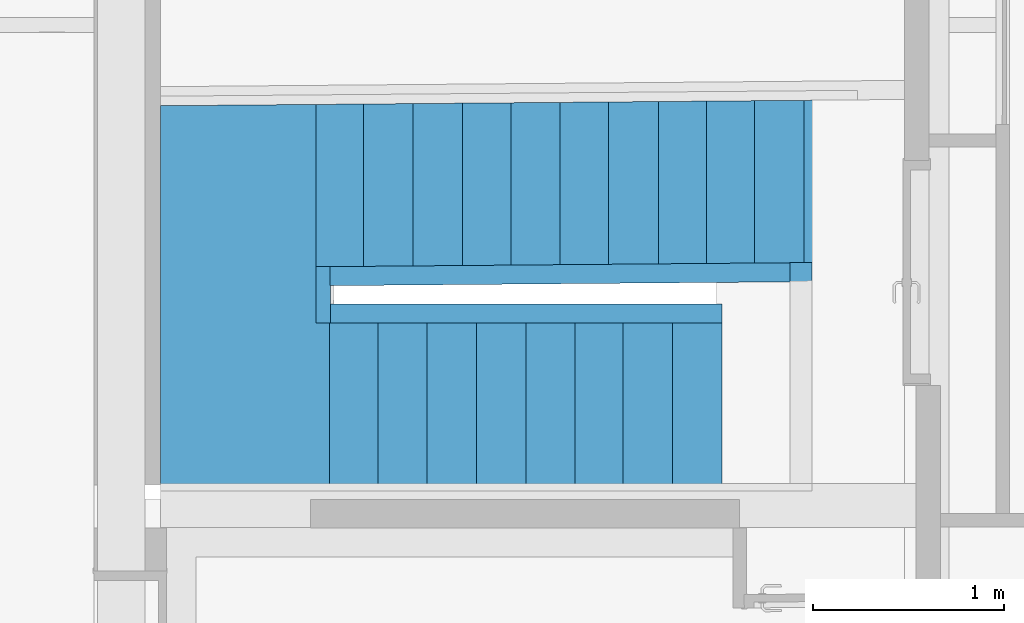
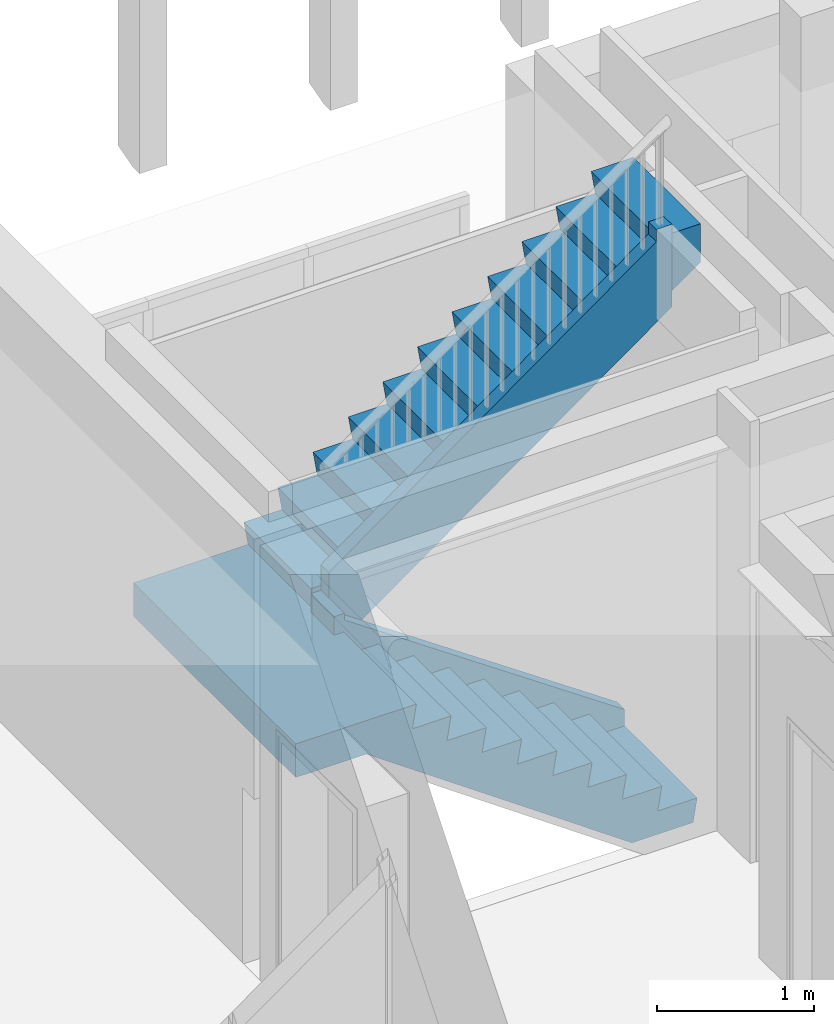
# One storey, part 47 of 65: 1 stair, 1 stair flight, 1 element without a shape of its own.
"""IFC4 building model written with IfcOpenShell, lengths in metres."""

from ifc_helpers import new_model, entity, si_unit, converted_unit, derived_unit, direction, frame, origin, place, context, subcontext, project, spatial, polygons, material, constituent, constituent_set, type_object, element, aggregate, save


model = new_model("IFC4")

# Units and contexts
model_context = context("Model", 3, precision=1e-05, world=origin(), true_north=direction((6.12303176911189e-17, 1.0)))
body_context = subcontext(model_context, "Body", "Model", "MODEL_VIEW")
ifc_project = project(units=[si_unit("LENGTHUNIT", "METRE"), si_unit("AREAUNIT", "SQUARE_METRE"), si_unit("VOLUMEUNIT", "CUBIC_METRE"), converted_unit("PLANEANGLEUNIT", "DEGREE", entity("IfcRatioMeasure", 0.0174532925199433), si_unit("PLANEANGLEUNIT", "RADIAN"), dimensions=[0, 0, 0, 0, 0, 0, 0]), si_unit("MASSUNIT", "GRAM", prefix="KILO"), derived_unit("MASSDENSITYUNIT", [(si_unit("MASSUNIT", "GRAM", prefix="KILO"), 1), (si_unit("LENGTHUNIT", "METRE"), -3)]), derived_unit("MOMENTOFINERTIAUNIT", [(si_unit("LENGTHUNIT", "METRE"), 4)]), si_unit("TIMEUNIT", "SECOND"), si_unit("FREQUENCYUNIT", "HERTZ"), si_unit("THERMODYNAMICTEMPERATUREUNIT", "DEGREE_CELSIUS"), derived_unit("THERMALTRANSMITTANCEUNIT", [(si_unit("MASSUNIT", "GRAM", prefix="KILO"), 1), (si_unit("THERMODYNAMICTEMPERATUREUNIT", "KELVIN"), -1), (si_unit("TIMEUNIT", "SECOND"), -3)]), derived_unit("VOLUMETRICFLOWRATEUNIT", [(si_unit("LENGTHUNIT", "METRE"), 3), (si_unit("TIMEUNIT", "SECOND"), -1)]), si_unit("ELECTRICCURRENTUNIT", "AMPERE"), si_unit("ELECTRICVOLTAGEUNIT", "VOLT"), si_unit("POWERUNIT", "WATT"), si_unit("FORCEUNIT", "NEWTON", prefix="KILO"), si_unit("ILLUMINANCEUNIT", "LUX"), si_unit("LUMINOUSFLUXUNIT", "LUMEN"), si_unit("LUMINOUSINTENSITYUNIT", "CANDELA"), derived_unit("USERDEFINED", [(si_unit("MASSUNIT", "GRAM", prefix="KILO"), -1), (si_unit("LENGTHUNIT", "METRE"), -2), (si_unit("TIMEUNIT", "SECOND"), 3), (si_unit("LUMINOUSFLUXUNIT", "LUMEN"), 1)]), derived_unit("LINEARVELOCITYUNIT", [(si_unit("LENGTHUNIT", "METRE"), 1), (si_unit("TIMEUNIT", "SECOND"), -1)]), si_unit("PRESSUREUNIT", "PASCAL"), derived_unit("USERDEFINED", [(si_unit("LENGTHUNIT", "METRE"), -2), (si_unit("MASSUNIT", "GRAM", prefix="KILO"), 1), (si_unit("TIMEUNIT", "SECOND"), -2)]), derived_unit("LINEARFORCEUNIT", [(si_unit("MASSUNIT", "GRAM", prefix="KILO"), 1), (si_unit("LENGTHUNIT", "METRE"), 1), (si_unit("TIMEUNIT", "SECOND"), -2), (si_unit("LENGTHUNIT", "METRE"), -1)]), derived_unit("PLANARFORCEUNIT", [(si_unit("MASSUNIT", "GRAM", prefix="KILO"), 1), (si_unit("LENGTHUNIT", "METRE"), 1), (si_unit("TIMEUNIT", "SECOND"), -2), (si_unit("LENGTHUNIT", "METRE"), -2)])], contexts=[model_context])

# Site, building, storey
site_placement = place(None, origin())
site = spatial("IfcSite", under=ifc_project, at=site_placement, Name="Default", CompositionType="ELEMENT")
building_placement = place(site_placement, origin())
building = spatial("IfcBuilding", under=site, at=building_placement, Name="HOTEL CONSULAIRE BOULOGNE SUR MER", CompositionType="ELEMENT")
storey_placement = place(building_placement, origin())
storey = spatial("IfcBuildingStorey", under=building, at=storey_placement, Name="Niveau 0", CompositionType="ELEMENT", Elevation=1.31981936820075e-13)

# Stair, stair flight
stair_type_1 = type_object("IfcStairType", PredefinedType="NOTDEFINED")
stair_1_placement = place(storey_placement, origin())
stair_1 = element("IfcStair", 1, at=stair_1_placement, inside=storey, type_object=stair_type_1, Name="Escalier coulé sur place:Escalier", PredefinedType="NOTDEFINED")
ifc_material_1 = material(Name="Dalle, carrelage 15 x 15", Category="Mosaïque")
ifc_constituent_1 = constituent(ifc_material_1, Name="Dalle, carrelage 15 x 15", Category="Matériaux")
ifc_material_2 = material(Name="Maçonnerie - Béton", Category="Béton")
ifc_constituent_2 = constituent(ifc_material_2, Name="Maçonnerie - Béton", Category="Matériaux")
ifc_constituent_set = constituent_set(constituents=[ifc_constituent_1, ifc_constituent_2], Name="MaterialConstituentSet")
stair_flight_type = type_object("IfcStairFlightType", Name="Volée monobloc:Profondeur de structure 250 mm", PredefinedType="NOTDEFINED")
stair_flight_placement = place(stair_1_placement, frame((-5.15977317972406, -13.8709141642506, 0.0)))
stair_flight = element("IfcStairFlight", 2, at=stair_flight_placement, type_object=stair_flight_type, material=ifc_constituent_set, Name="Escalier coulé sur place:Escalier:269972 Run 1", ObjectType="Volée monobloc:Profondeur de structure 250 mm", PredefinedType="NOTDEFINED", context=body_context, shape_type="Tessellation", body=[
    polygons([(2.94548335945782, 2.16573425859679e-15, 0.181076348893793), (2.94548335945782, 0.921793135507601, 0.181076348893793), (2.65548335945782, 0.921793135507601, 0.181076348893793), (2.65548335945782, 2.16573425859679e-15, 0.181076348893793), (2.91548335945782, 2.16573425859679e-15, 0.171076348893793), (2.65548335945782, 2.16573425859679e-15, 0.171076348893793), (2.65548335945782, 0.921793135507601, 0.171076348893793), (2.91548335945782, 0.921793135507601, 0.171076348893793), (2.91548335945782, 2.16573425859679e-15, 7.6348893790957e-05), (2.91548335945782, 0.921793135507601, 7.63488937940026e-05)], [[[3, 4, 1, 2]], [[8, 5, 6, 7]], [[1, 4, 6, 5, 9]], [[3, 2, 10, 8, 7]], [[4, 3, 7, 6]], [[8, 10, 9, 5]], [[10, 2, 1, 9]]], closed=True),
    polygons([(2.68548335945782, 2.16573425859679e-15, 0.362152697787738), (2.68548335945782, 0.921793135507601, 0.362152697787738), (2.39548335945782, 0.921793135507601, 0.362152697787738), (2.39548335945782, 2.16573425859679e-15, 0.362152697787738), (2.65548335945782, 2.16573425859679e-15, 0.352152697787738), (2.39548335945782, 2.16573425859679e-15, 0.352152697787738), (2.39548335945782, 0.921793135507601, 0.352152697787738), (2.65548335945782, 0.921793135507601, 0.352152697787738), (2.65548335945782, 2.16573425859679e-15, 0.181152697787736), (2.65548335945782, 0.921793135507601, 0.181152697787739)], [[[3, 4, 1, 2]], [[8, 5, 6, 7]], [[1, 4, 6, 5, 9]], [[3, 2, 10, 8, 7]], [[4, 3, 7, 6]], [[8, 10, 9, 5]], [[10, 2, 1, 9]]], closed=True),
    polygons([(1.13948335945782, 2.16573425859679e-15, 1.44861079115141), (1.13948335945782, 0.921793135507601, 1.44861079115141), (0.855483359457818, 0.921793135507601, 1.44861079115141), (0.855483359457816, 2.16573425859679e-15, 1.44861079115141), (1.10948335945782, 2.16573425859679e-15, 1.43861079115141), (0.855483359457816, 2.16573425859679e-15, 1.43861079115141), (0.855483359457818, 0.921793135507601, 1.43861079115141), (1.10948335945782, 0.921793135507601, 1.43861079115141), (1.10948335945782, 2.16573425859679e-15, 1.2676107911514), (1.10948335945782, 0.921793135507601, 1.26761079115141)], [[[3, 4, 1, 2]], [[8, 5, 6, 7]], [[1, 4, 6, 5, 9]], [[3, 2, 10, 8, 7]], [[4, 3, 7, 6]], [[8, 10, 9, 5]], [[10, 2, 1, 9]]], closed=True),
    polygons([(0.843932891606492, 2.06851445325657, 1.62968714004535), (1.08286712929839e-15, 2.06139650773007, 1.62968714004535), (1.08286712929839e-15, 2.16573425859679e-15, 1.62968714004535), (0.885483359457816, 2.16573425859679e-15, 1.62968714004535), (0.885483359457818, 0.921793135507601, 1.62968714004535), (0.813932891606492, 0.921793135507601, 1.62968714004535), (0.813932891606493, 1.2169421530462, 1.62968714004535), (0.843932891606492, 1.21719591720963, 1.62968714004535), (1.08286712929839e-15, 2.06139650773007, 1.61968714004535), (0.843932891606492, 2.06851445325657, 1.61968714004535), (0.843932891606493, 1.21719591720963, 1.61968714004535), (0.813932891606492, 1.2169421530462, 1.61968714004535), (0.813932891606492, 0.921793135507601, 1.61968714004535), (0.855483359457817, 0.921793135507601, 1.61968714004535), (0.855483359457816, 2.16573425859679e-15, 1.61968714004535), (1.08286712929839e-15, 2.16573425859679e-15, 1.61968714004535), (0.855483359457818, 0.921793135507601, 1.44868714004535), (0.855483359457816, 2.16573425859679e-15, 1.44868714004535)], [[[8, 1, 2, 3, 4, 5, 6, 7]], [[9, 10, 11, 12, 13, 14, 15, 16]], [[2, 1, 10, 9]], [[6, 5, 17, 14, 13]], [[1, 8, 11, 10]], [[7, 6, 13, 12]], [[3, 2, 9, 16]], [[14, 17, 18, 15]], [[4, 3, 16, 15, 18]], [[17, 5, 4, 18]], [[8, 7, 12, 11]]], closed=True),
    polygons([(1.06393289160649, 2.07036998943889, 1.99183983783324), (1.06393289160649, 1.21905685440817, 1.99183983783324), (1.35393283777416, 1.22150990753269, 1.99183983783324), (1.35393283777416, 2.07281592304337, 1.99183983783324), (1.09393289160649, 2.07062301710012, 1.98183983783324), (1.35393283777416, 2.07281592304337, 1.98183983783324), (1.35393283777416, 1.22150990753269, 1.98183983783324), (1.09393289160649, 1.2193106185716, 1.98183983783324), (1.09393289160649, 2.07062301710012, 1.81083983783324), (1.09393289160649, 1.2193106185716, 1.81083983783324)], [[[3, 4, 1, 2]], [[8, 5, 6, 7]], [[1, 4, 6, 5, 9]], [[3, 2, 10, 8, 7]], [[4, 3, 7, 6]], [[8, 10, 9, 5]], [[10, 2, 1, 9]]], closed=True),
    polygons([(1.32393283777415, 2.07256289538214, 2.17291618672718), (1.32393283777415, 1.22125614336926, 2.17291618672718), (1.61393278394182, 1.22370919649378, 2.17291618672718), (1.61393278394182, 2.07500882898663, 2.17291618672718), (1.35393283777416, 2.07281592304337, 2.16291618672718), (1.61393278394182, 2.07500882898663, 2.16291618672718), (1.61393278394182, 1.22370919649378, 2.16291618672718), (1.35393283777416, 1.22150990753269, 2.16291618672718), (1.35393283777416, 2.07281592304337, 1.99191618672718), (1.35393283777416, 1.22150990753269, 1.99191618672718)], [[[3, 4, 1, 2]], [[8, 5, 6, 7]], [[1, 4, 6, 5, 9]], [[3, 2, 10, 8, 7]], [[4, 3, 7, 6]], [[8, 10, 9, 5]], [[10, 2, 1, 9]]], closed=True),
    polygons([(0.813932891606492, 2.06826142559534, 1.81076348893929), (0.813932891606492, 1.2169421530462, 1.81076348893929), (1.09393289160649, 1.2193106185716, 1.81076348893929), (1.09393289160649, 2.07062301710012, 1.81076348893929), (0.843932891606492, 2.06851445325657, 1.80076348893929), (1.09393289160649, 2.07062301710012, 1.80076348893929), (1.09393289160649, 1.2193106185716, 1.80076348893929), (0.843932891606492, 1.21719591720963, 1.80076348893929), (0.843932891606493, 2.06851445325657, 1.62976348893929), (0.843932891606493, 1.21719591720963, 1.6297634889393)], [[[3, 4, 1, 2]], [[8, 5, 6, 7]], [[1, 4, 6, 5, 9]], [[3, 2, 10, 8, 7]], [[4, 3, 7, 6]], [[8, 10, 9, 5]], [[10, 2, 1, 9]]], closed=True),
    polygons([(1.58393278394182, 2.0747558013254, 2.35399253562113), (1.58393278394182, 1.22345543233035, 2.35399253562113), (1.86793278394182, 1.22585773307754, 2.35399253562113), (1.86793278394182, 2.07715112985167, 2.35399253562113), (1.61393278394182, 2.07500882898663, 2.34399253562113), (1.86793278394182, 2.07715112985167, 2.34399253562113), (1.86793278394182, 1.22585773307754, 2.34399253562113), (1.61393278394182, 1.22370919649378, 2.34399253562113), (1.61393278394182, 2.07500882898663, 2.17299253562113), (1.61393278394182, 1.22370919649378, 2.17299253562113)], [[[3, 4, 1, 2]], [[8, 5, 6, 7]], [[1, 4, 6, 5, 9]], [[3, 2, 10, 8, 7]], [[4, 3, 7, 6]], [[8, 10, 9, 5]], [[10, 2, 1, 9]]], closed=True),
    polygons([(2.42548335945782, 2.16573425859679e-15, 0.543229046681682), (2.42548335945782, 0.921793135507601, 0.543229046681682), (2.14348335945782, 0.921793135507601, 0.543229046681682), (2.14348335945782, 2.16573425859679e-15, 0.543229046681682), (2.39548335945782, 2.16573425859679e-15, 0.533229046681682), (2.14348335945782, 2.16573425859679e-15, 0.533229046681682), (2.14348335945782, 0.921793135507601, 0.533229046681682), (2.39548335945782, 0.921793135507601, 0.533229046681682), (2.39548335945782, 2.16573425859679e-15, 0.36222904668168), (2.39548335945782, 0.921793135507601, 0.362229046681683)], [[[3, 4, 1, 2]], [[8, 5, 6, 7]], [[1, 4, 6, 5, 9]], [[3, 2, 10, 8, 7]], [[4, 3, 7, 6]], [[8, 10, 9, 5]], [[10, 2, 1, 9]]], closed=True),
    polygons([(2.17348335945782, 2.16573425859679e-15, 0.724305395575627), (2.17348335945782, 0.921793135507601, 0.724305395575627), (1.88548335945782, 0.921793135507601, 0.724305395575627), (1.88548335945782, 2.16573425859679e-15, 0.724305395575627), (2.14348335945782, 2.16573425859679e-15, 0.714305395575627), (1.88548335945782, 2.16573425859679e-15, 0.714305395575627), (1.88548335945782, 0.921793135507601, 0.714305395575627), (2.14348335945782, 0.921793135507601, 0.714305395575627), (2.14348335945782, 2.16573425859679e-15, 0.543305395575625), (2.14348335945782, 0.921793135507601, 0.543305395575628)], [[[3, 4, 1, 2]], [[8, 5, 6, 7]], [[1, 4, 6, 5, 9]], [[3, 2, 10, 8, 7]], [[4, 3, 7, 6]], [[8, 10, 9, 5]], [[10, 2, 1, 9]]], closed=True),
    polygons([(1.91548335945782, 2.16573425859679e-15, 0.905381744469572), (1.91548335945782, 0.921793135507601, 0.905381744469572), (1.62648335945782, 0.921793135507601, 0.905381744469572), (1.62648335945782, 2.16573425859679e-15, 0.905381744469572), (1.88548335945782, 2.16573425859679e-15, 0.895381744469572), (1.62648335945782, 2.16573425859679e-15, 0.895381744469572), (1.62648335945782, 0.921793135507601, 0.895381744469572), (1.88548335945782, 0.921793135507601, 0.895381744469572), (1.88548335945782, 2.16573425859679e-15, 0.724381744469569), (1.88548335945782, 0.921793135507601, 0.724381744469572)], [[[3, 4, 1, 2]], [[8, 5, 6, 7]], [[1, 4, 6, 5, 9]], [[3, 2, 10, 8, 7]], [[4, 3, 7, 6]], [[8, 10, 9, 5]], [[10, 2, 1, 9]]], closed=True),
    polygons([(1.65648335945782, 2.16573425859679e-15, 1.08645809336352), (1.65648335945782, 0.921793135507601, 1.08645809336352), (1.36748335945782, 0.921793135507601, 1.08645809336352), (1.36748335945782, 2.16573425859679e-15, 1.08645809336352), (1.62648335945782, 2.16573425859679e-15, 1.07645809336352), (1.36748335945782, 2.16573425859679e-15, 1.07645809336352), (1.36748335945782, 0.921793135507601, 1.07645809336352), (1.62648335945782, 0.921793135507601, 1.07645809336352), (1.62648335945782, 2.16573425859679e-15, 0.905458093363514), (1.62648335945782, 0.921793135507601, 0.905458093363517)], [[[3, 4, 1, 2]], [[8, 5, 6, 7]], [[1, 4, 6, 5, 9]], [[3, 2, 10, 8, 7]], [[4, 3, 7, 6]], [[8, 10, 9, 5]], [[10, 2, 1, 9]]], closed=True),
    polygons([(1.39748335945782, 2.16573425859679e-15, 1.26753444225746), (1.39748335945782, 0.921793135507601, 1.26753444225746), (1.10948335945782, 0.921793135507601, 1.26753444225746), (1.10948335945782, 2.16573425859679e-15, 1.26753444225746), (1.36748335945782, 2.16573425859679e-15, 1.25753444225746), (1.10948335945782, 2.16573425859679e-15, 1.25753444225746), (1.10948335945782, 0.921793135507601, 1.25753444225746), (1.36748335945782, 0.921793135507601, 1.25753444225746), (1.36748335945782, 2.16573425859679e-15, 1.08653444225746), (1.36748335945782, 0.921793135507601, 1.08653444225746)], [[[3, 4, 1, 2]], [[8, 5, 6, 7]], [[1, 4, 6, 5, 9]], [[3, 2, 10, 8, 7]], [[4, 3, 7, 6]], [[8, 10, 9, 5]], [[10, 2, 1, 9]]], closed=True),
    polygons([(1.83793278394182, 2.07689810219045, 2.53506888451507), (1.83793278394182, 1.22560396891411, 2.53506888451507), (2.12393278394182, 1.2280231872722, 2.53506888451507), (2.12393278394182, 2.07931029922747, 2.53506888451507), (1.86793278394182, 2.07715112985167, 2.52506888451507), (2.12393278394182, 2.07931029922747, 2.52506888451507), (2.12393278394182, 1.2280231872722, 2.52506888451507), (1.86793278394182, 1.22585773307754, 2.52506888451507), (1.86793278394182, 2.07715112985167, 2.35406888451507), (1.86793278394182, 1.22585773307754, 2.35406888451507)], [[[3, 4, 1, 2]], [[8, 5, 6, 7]], [[1, 4, 6, 5, 9]], [[3, 2, 10, 8, 7]], [[4, 3, 7, 6]], [[8, 10, 9, 5]], [[10, 2, 1, 9]]], closed=True),
    polygons([(2.09393278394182, 2.07905727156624, 2.71614523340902), (2.09393278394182, 1.22776942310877, 2.71614523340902), (2.37793278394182, 1.23017172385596, 2.71614523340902), (2.37793278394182, 2.08145260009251, 2.71614523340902), (2.12393278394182, 2.07931029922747, 2.70614523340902), (2.37793278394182, 2.08145260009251, 2.70614523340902), (2.37793278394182, 1.23017172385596, 2.70614523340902), (2.12393278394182, 1.2280231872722, 2.70614523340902), (2.12393278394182, 2.07931029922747, 2.53514523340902), (2.12393278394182, 1.2280231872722, 2.53514523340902)], [[[3, 4, 1, 2]], [[8, 5, 6, 7]], [[1, 4, 6, 5, 9]], [[3, 2, 10, 8, 7]], [[4, 3, 7, 6]], [[8, 10, 9, 5]], [[10, 2, 1, 9]]], closed=True),
    polygons([(2.34793278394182, 2.08119957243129, 2.89722158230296), (2.34793278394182, 1.22991795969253, 2.89722158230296), (2.63993246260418, 1.23238792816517, 2.89722158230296), (2.63993246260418, 2.08366237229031, 2.89722158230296), (2.37793278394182, 2.08145260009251, 2.88722158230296), (2.63993246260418, 2.08366237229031, 2.88722158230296), (2.63993246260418, 1.23238792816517, 2.88722158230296), (2.37793278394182, 1.23017172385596, 2.88722158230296), (2.37793278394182, 2.08145260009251, 2.71622158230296), (2.37793278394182, 1.23017172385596, 2.71622158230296)], [[[3, 4, 1, 2]], [[8, 5, 6, 7]], [[1, 4, 6, 5, 9]], [[3, 2, 10, 8, 7]], [[4, 3, 7, 6]], [[8, 10, 9, 5]], [[10, 2, 1, 9]]], closed=True),
    polygons([(2.60993246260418, 2.08340934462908, 3.07829793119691), (2.60993246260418, 1.23213416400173, 3.07829793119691), (2.89293246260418, 1.23452800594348, 3.07829793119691), (2.89293246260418, 2.08579623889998, 3.07829793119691), (2.63993246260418, 2.08366237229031, 3.06829793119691), (2.89293246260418, 2.08579623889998, 3.06829793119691), (2.89293246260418, 1.23452800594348, 3.06829793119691), (2.63993246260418, 1.23238792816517, 3.06829793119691), (2.63993246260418, 2.08366237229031, 2.8972979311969), (2.63993246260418, 1.23238792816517, 2.89729793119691)], [[[3, 4, 1, 2]], [[8, 5, 6, 7]], [[1, 4, 6, 5, 9]], [[3, 2, 10, 8, 7]], [[4, 3, 7, 6]], [[8, 10, 9, 5]], [[10, 2, 1, 9]]], closed=True),
    polygons([(2.86293246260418, 2.08554321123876, 3.25937428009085), (2.86293246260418, 1.23427424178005, 3.25937428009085), (3.14393246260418, 1.2366511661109, 3.25937428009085), (3.14393246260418, 2.08791323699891, 3.25937428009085), (2.89293246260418, 2.08579623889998, 3.24937428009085), (3.14393246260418, 2.08791323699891, 3.24937428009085), (3.14393246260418, 1.2366511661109, 3.24937428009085), (2.89293246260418, 1.23452800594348, 3.24937428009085), (2.89293246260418, 2.08579623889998, 3.07837428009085), (2.89293246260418, 1.23452800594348, 3.07837428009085)], [[[3, 4, 1, 2]], [[8, 5, 6, 7]], [[1, 4, 6, 5, 9]], [[3, 2, 10, 8, 7]], [[4, 3, 7, 6]], [[8, 10, 9, 5]], [[10, 2, 1, 9]]], closed=True),
    polygons([(3.11393246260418, 2.08766020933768, 3.4404506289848), (3.11393246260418, 1.23639740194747, 3.4404506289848), (3.40393246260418, 1.23885045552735, 3.4404506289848), (3.40393246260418, 2.0901061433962, 3.4404506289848), (3.14393246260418, 2.08791323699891, 3.4304506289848), (3.40393246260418, 2.0901061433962, 3.4304506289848), (3.40393246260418, 1.23885045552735, 3.4304506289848), (3.14393246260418, 1.2366511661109, 3.4304506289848), (3.14393246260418, 2.08791323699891, 3.25945062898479), (3.14393246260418, 1.2366511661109, 3.2594506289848)], [[[3, 4, 1, 2]], [[8, 5, 6, 7]], [[1, 4, 6, 5, 9]], [[3, 2, 10, 8, 7]], [[4, 3, 7, 6]], [[8, 10, 9, 5]], [[10, 2, 1, 9]]], closed=True),
    polygons([(3.37393246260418, 2.08985311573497, 3.62152697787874), (3.37393246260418, 1.23859669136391, 3.62152697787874), (3.68593244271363, 1.2412358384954, 3.62152697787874), (3.68593244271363, 2.09248460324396, 3.62152697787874), (3.40393246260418, 2.0901061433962, 3.61152697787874), (3.68593244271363, 2.09248460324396, 3.61152697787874), (3.68593244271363, 1.2412358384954, 3.61152697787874), (3.40393246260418, 1.23885045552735, 3.61152697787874), (3.40393246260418, 2.0901061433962, 3.44052697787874), (3.40393246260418, 1.23885045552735, 3.44052697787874)], [[[3, 4, 1, 2]], [[8, 5, 6, 7]], [[1, 4, 6, 5, 9]], [[3, 2, 10, 8, 7]], [[4, 3, 7, 6]], [[8, 10, 9, 5]], [[10, 2, 1, 9]]], closed=True),
    polygons([(2.65548335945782, 2.16573425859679e-15, 0.171076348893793), (2.91548335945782, 2.16573425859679e-15, 0.171076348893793), (2.91548335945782, 0.921793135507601, 0.171076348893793), (2.65548335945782, 0.921793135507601, 0.171076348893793), (2.65548335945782, 2.16573425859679e-15, -1.04470343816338e-13), (2.91548335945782, 2.16573425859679e-15, -1.04470343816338e-13), (2.91548335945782, 0.921793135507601, -1.04470343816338e-13), (2.65548335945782, 0.921793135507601, -1.04470343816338e-13), (2.39548335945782, 2.16573425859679e-15, 0.352152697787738), (2.65548335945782, 2.16573425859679e-15, 0.352152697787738), (2.65548335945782, 0.921793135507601, 0.352152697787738), (2.39548335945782, 0.921793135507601, 0.352152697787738), (2.39548335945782, 2.16573425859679e-15, 0.0500440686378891), (2.46664863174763, 2.16573425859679e-15, -1.04436504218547e-13), (2.46664863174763, 0.921793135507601, -1.04639541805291e-13), (2.39548335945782, 0.921793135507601, 0.05004406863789), (0.855483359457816, 2.16573425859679e-15, 1.43861079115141), (1.10948335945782, 2.16573425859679e-15, 1.43861079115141), (1.10948335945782, 0.921793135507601, 1.43861079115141), (0.855483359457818, 0.921793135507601, 1.43861079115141), (0.855483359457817, 2.16573425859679e-15, 1.13298611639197), (1.10948335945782, 2.16573425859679e-15, 0.954370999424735), (1.10948335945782, 2.16573425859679e-15, 1.25753444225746), (1.10948335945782, 0.921793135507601, 1.25753444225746), (1.10948335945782, 0.921793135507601, 0.954370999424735), (0.855483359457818, 0.921793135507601, 1.13298611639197), (0.843932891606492, 2.06851445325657, 1.61968714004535), (1.08286712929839e-15, 2.06139650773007, 1.61968714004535), (1.08286712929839e-15, 2.16573425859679e-15, 1.61968714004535), (0.51888217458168, 4.33146851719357e-15, 1.61968714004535), (0.855483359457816, 2.16573425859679e-15, 1.61968714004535), (0.855483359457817, 0.921793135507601, 1.61968714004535), (0.813932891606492, 0.921793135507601, 1.61968714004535), (0.813932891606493, 1.2169421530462, 1.61968714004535), (0.843932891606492, 1.21719591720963, 1.61968714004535), (0.843932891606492, 2.06851445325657, 1.36968714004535), (1.08286712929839e-15, 2.06139650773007, 1.36968714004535), (0.518882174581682, 0.921793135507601, 1.36968714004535), (0.813932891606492, 0.921793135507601, 1.36968714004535), (1.35393283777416, 2.07281592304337, 1.98183983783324), (1.09393289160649, 2.07062301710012, 1.98183983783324), (1.09393289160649, 1.2193106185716, 1.98183983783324), (1.35393283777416, 1.22150990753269, 1.98183983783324), (1.35393283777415, 2.07281592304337, 1.67420681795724), (1.09393289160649, 2.07062301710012, 1.4903011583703), (1.09393289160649, 2.07062301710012, 1.80076348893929), (1.09393289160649, 1.2193106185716, 1.80076348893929), (1.09393289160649, 1.2193106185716, 1.4903011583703), (1.35393283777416, 1.22150990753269, 1.67420681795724), (1.61393278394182, 2.07500882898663, 2.16291618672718), (1.35393283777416, 2.07281592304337, 2.16291618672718), (1.35393283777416, 1.22150990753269, 2.16291618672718), (1.61393278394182, 1.22370919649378, 2.16291618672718), (1.61393278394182, 2.07500882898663, 1.85811247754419), (1.61393278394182, 1.22370919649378, 1.85811247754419), (0.51888217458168, 2.16573425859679e-15, 1.36968714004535), (1.36748335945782, 0.921793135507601, 0.772943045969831), (1.62648335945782, 0.921793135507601, 0.590811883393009), (1.88548335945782, 0.921793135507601, 0.408680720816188), (2.14348335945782, 0.921793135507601, 0.227252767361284), (2.14348335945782, 2.16573425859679e-15, 0.227252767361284), (1.88548335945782, 2.16573425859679e-15, 0.408680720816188), (1.62648335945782, 2.16573425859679e-15, 0.590811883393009), (1.36748335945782, 2.16573425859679e-15, 0.772943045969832), (1.08286712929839e-15, 2.16573425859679e-15, 1.36968714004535), (0.923412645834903, 2.06918480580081, 1.36968714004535), (0.923412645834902, 1.2178682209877, 1.36968714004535), (0.843932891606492, 1.21719591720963, 1.36968714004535), (0.813932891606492, 1.2169421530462, 1.36968714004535), (1.86793278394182, 2.07715112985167, 2.03777419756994), (2.12393278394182, 2.07931029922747, 2.21885057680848), (2.37793278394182, 2.08145260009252, 2.39851229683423), (2.63993246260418, 2.08366237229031, 2.58383242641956), (2.89293246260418, 2.08579623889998, 2.7627868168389), (3.14393246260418, 2.08791323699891, 2.94032654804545), (3.40393246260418, 2.0901061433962, 3.1242322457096), (3.68593244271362, 2.09248460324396, 3.32369918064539), (3.68593244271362, 1.2412358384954, 3.32369918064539), (3.40393246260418, 1.23885045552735, 3.1242322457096), (3.14393246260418, 1.2366511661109, 2.94032654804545), (2.89293246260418, 1.23452800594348, 2.7627868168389), (2.63993246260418, 1.23238792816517, 2.58383242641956), (2.37793278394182, 1.23017172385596, 2.39851229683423), (2.12393278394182, 1.2280231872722, 2.21885057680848), (1.86793278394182, 1.22585773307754, 2.03777419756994), (0.843932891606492, 2.06851445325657, 1.80076348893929), (0.843932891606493, 1.21719591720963, 1.80076348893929), (0.923412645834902, 1.2178682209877, 1.80076348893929), (0.923412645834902, 2.06918480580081, 1.80076348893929), (1.86793278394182, 2.07715112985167, 2.34399253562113), (1.61393278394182, 2.07500882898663, 2.34399253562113), (1.61393278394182, 1.22370919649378, 2.34399253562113), (1.86793278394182, 1.22585773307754, 2.34399253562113), (2.14348335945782, 2.16573425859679e-15, 0.533229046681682), (2.39548335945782, 2.16573425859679e-15, 0.533229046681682), (2.39548335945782, 0.921793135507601, 0.533229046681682), (2.14348335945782, 0.921793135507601, 0.533229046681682), (1.88548335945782, 2.16573425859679e-15, 0.714305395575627), (2.14348335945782, 2.16573425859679e-15, 0.714305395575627), (2.14348335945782, 0.921793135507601, 0.714305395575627), (1.88548335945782, 0.921793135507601, 0.714305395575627), (1.62648335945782, 2.16573425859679e-15, 0.895381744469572), (1.88548335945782, 2.16573425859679e-15, 0.895381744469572), (1.88548335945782, 0.921793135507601, 0.895381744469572), (1.62648335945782, 0.921793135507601, 0.895381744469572), (1.36748335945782, 2.16573425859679e-15, 1.07645809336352), (1.62648335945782, 2.16573425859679e-15, 1.07645809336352), (1.62648335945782, 0.921793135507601, 1.07645809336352), (1.36748335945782, 0.921793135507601, 1.07645809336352), (1.36748335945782, 2.16573425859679e-15, 1.25753444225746), (1.36748335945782, 0.921793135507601, 1.25753444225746), (2.12393278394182, 2.07931029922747, 2.52506888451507), (1.86793278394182, 2.07715112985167, 2.52506888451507), (1.86793278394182, 1.22585773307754, 2.52506888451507), (2.12393278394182, 1.2280231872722, 2.52506888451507), (2.37793278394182, 2.08145260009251, 2.70614523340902), (2.12393278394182, 2.07931029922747, 2.70614523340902), (2.12393278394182, 1.2280231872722, 2.70614523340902), (2.37793278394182, 1.23017172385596, 2.70614523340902), (2.63993246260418, 2.08366237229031, 2.88722158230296), (2.37793278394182, 2.08145260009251, 2.88722158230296), (2.37793278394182, 1.23017172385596, 2.88722158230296), (2.63993246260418, 1.23238792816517, 2.88722158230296), (2.89293246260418, 2.08579623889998, 3.06829793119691), (2.63993246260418, 2.08366237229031, 3.06829793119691), (2.63993246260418, 1.23238792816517, 3.06829793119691), (2.89293246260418, 1.23452800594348, 3.06829793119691), (3.14393246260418, 2.08791323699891, 3.24937428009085), (2.89293246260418, 2.08579623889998, 3.24937428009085), (2.89293246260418, 1.23452800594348, 3.24937428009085), (3.14393246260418, 1.2366511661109, 3.24937428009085), (3.40393246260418, 2.0901061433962, 3.4304506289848), (3.14393246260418, 2.08791323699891, 3.4304506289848), (3.14393246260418, 1.2366511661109, 3.4304506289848), (3.40393246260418, 1.23885045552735, 3.4304506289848), (3.68593244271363, 2.09248460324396, 3.61152697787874), (3.40393246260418, 2.0901061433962, 3.61152697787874), (3.40393246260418, 1.23885045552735, 3.61152697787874), (3.68593244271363, 1.2412358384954, 3.61152697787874)], [[[4, 1, 2, 3]], [[12, 9, 10, 11]], [[20, 17, 18, 19]], [[35, 27, 28, 29, 30, 31, 32, 33, 34]], [[43, 40, 41, 42]], [[53, 50, 51, 52]], [[46, 89, 86, 87, 88, 47]], [[93, 90, 91, 92]], [[97, 94, 95, 96]], [[101, 98, 99, 100]], [[105, 102, 103, 104]], [[109, 106, 107, 108]], [[24, 23, 110, 111]], [[115, 112, 113, 114]], [[119, 116, 117, 118]], [[123, 120, 121, 122]], [[127, 124, 125, 126]], [[131, 128, 129, 130]], [[135, 132, 133, 134]], [[139, 136, 137, 138]], [[2, 1, 10, 9, 95, 94, 99, 98, 103, 102, 107, 106, 110, 23, 18, 17, 31, 30, 29, 65, 56, 21, 22, 64, 63, 62, 61, 13, 14, 5, 6]], [[3, 2, 6, 7]], [[11, 10, 1, 4]], [[19, 18, 23, 24]], [[32, 31, 17, 20]], [[34, 33, 39, 69]], [[96, 95, 9, 12]], [[100, 99, 94, 97]], [[104, 103, 98, 101]], [[108, 107, 102, 105]], [[111, 110, 106, 109]], [[136, 139, 78, 77]], [[4, 3, 7, 8, 15, 16, 60, 59, 58, 57, 25, 26, 38, 39, 33, 32, 20, 19, 24, 111, 109, 108, 105, 104, 101, 100, 97, 96, 12, 11]], [[28, 27, 86, 89, 46, 41, 40, 51, 50, 91, 90, 113, 112, 117, 116, 121, 120, 125, 124, 129, 128, 133, 132, 137, 136, 77, 76, 75, 74, 73, 72, 71, 70, 54, 44, 45, 66, 36, 37]], [[42, 41, 46, 47]], [[52, 51, 40, 43]], [[29, 28, 37, 65]], [[87, 86, 27, 35]], [[92, 91, 50, 53]], [[114, 113, 90, 93]], [[118, 117, 112, 115]], [[122, 121, 116, 119]], [[126, 125, 120, 123]], [[130, 129, 124, 127]], [[134, 133, 128, 131]], [[138, 137, 132, 135]], [[43, 42, 47, 88, 87, 35, 34, 69, 68, 67, 48, 49, 55, 85, 84, 83, 82, 81, 80, 79, 78, 139, 138, 135, 134, 131, 130, 127, 126, 123, 122, 119, 118, 115, 114, 93, 92, 53, 52]], [[5, 14, 15, 8, 7, 6]], [[37, 36, 66, 67, 68, 69, 39, 38, 56, 65]], [[21, 56, 38, 26, 25, 57, 58, 59, 60, 16, 15, 14, 13, 61, 62, 63, 64, 22]], [[45, 44, 54, 70, 71, 72, 73, 74, 75, 76, 77, 78, 79, 80, 81, 82, 83, 84, 85, 55, 49, 48, 67, 66]]], closed=True),
])
aggregate(stair_1, [stair_flight])

# Stair
ifc_material_3 = material(Name="Finition Peinture - Blanc satiné", Category="Peinture")
stair_type_2 = type_object("IfcStairType", Name="Limon:Limon", PredefinedType="NOTDEFINED")
stair_2_placement = place(storey_placement, frame((-4.34584028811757, -12.949121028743, 0.0)))
element("IfcStair", 3, at=stair_2_placement, inside=storey, type_object=stair_type_2, material=ifc_material_3, Name="Limon:Limon", ObjectType="Limon:Limon", PredefinedType="NOTDEFINED", context=body_context, shape_type="Tessellation", body=[
    polygons([(2.48826149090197, 0.216193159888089, 3.77282871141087), (2.60308119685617, 0.217164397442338, 3.77282871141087), (2.60223534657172, 0.317160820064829, 3.77282871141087), (2.48741564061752, 0.31618958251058, 3.77282871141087), (5.41433564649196e-16, 0.0, 1.77327691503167), (0.0, 0.0, 1.16220478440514), (1.65271574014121, 0.0, 0.0), (2.13155046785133, 0.0, 0.0), (2.13155046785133, 0.0, 0.306864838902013), (0.0760000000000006, 0.0, 1.72099228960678), (0.0759999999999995, 0.0, 1.77327691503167), (2.13155046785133, 0.100000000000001, 0.0), (2.13155046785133, 0.100000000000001, 0.306864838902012), (1.65271574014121, 0.100000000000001, 0.0), (5.41433564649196e-16, 0.100000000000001, 1.16220478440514), (5.41433564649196e-16, 0.100000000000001, 1.3696871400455), (0.0760000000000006, 0.100000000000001, 1.3696871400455), (0.0759999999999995, 0.100000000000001, 1.72099228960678), (0.0760000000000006, 0.195788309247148, 1.3696871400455), (0.0760000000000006, 0.195788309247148, 1.77327691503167), (2.48826149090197, 0.216193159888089, 3.6789709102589), (0.0760000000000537, 0.195788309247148, 1.97270693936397), (0.110325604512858, 0.196078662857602, 1.3696871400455), (2.60308119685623, 0.217164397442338, 3.13288697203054), (2.60223534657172, 0.317160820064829, 3.13288697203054), (0.109479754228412, 0.296075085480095, 1.3696871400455), (5.41433564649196e-16, 0.295149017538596, 1.3696871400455), (5.41433564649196e-16, 0.295149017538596, 1.77327691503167), (0.073498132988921, 0.295770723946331, 1.77327691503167), (0.0734981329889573, 0.295770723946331, 1.97153558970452), (2.48741564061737, 0.31618958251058, 3.6789709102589), (0.0743438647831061, 0.195788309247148, 1.97153558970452), (0.0743438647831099, 0.195788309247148, 1.77327691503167)], [[[4, 1, 2, 3]], [[33, 29, 28, 5, 11, 20]], [[5, 6, 7, 8, 9, 10, 11]], [[32, 33, 20, 22]], [[13, 9, 8, 12]], [[18, 17, 19, 20, 11, 10]], [[17, 18, 13, 12, 14, 15, 16]], [[1, 21, 22, 20, 19, 23, 24, 2]], [[3, 25, 26, 27, 28, 29, 30, 31, 4]], [[5, 28, 27, 16, 15, 6]], [[9, 13, 18, 10]], [[6, 15, 14, 7]], [[8, 7, 14, 12]], [[19, 17, 16, 27, 26, 23]], [[23, 26, 25, 24]], [[22, 21, 31, 30, 32]], [[33, 32, 30, 29]], [[1, 4, 31, 21]], [[2, 24, 25, 3]]], closed=True),
])

save(model, "model.ifc")
